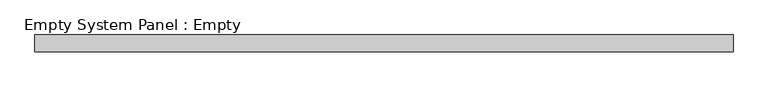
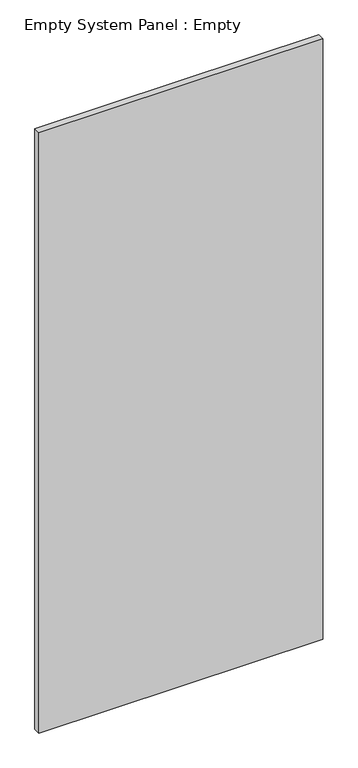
"""IFC4 building model written with IfcOpenShell, lengths in millimetres: plate geometry, Empty System Panel : Empty."""

from ifc_helpers import new_model, si_unit, origin, origin_with_axes, place, context, project, spatial, polyline, outline, extrude, source, transform, mapped, element, save


def empty_system_panel_empty_50bca125(model_context):
    return source(origin(), model_context, "Body", "SweptSolid", [
        extrude(outline(polyline([(527.05, 19.05), (-527.05, 19.05), (-527.05, 44.45), (527.05, 44.45), (527.05, 19.05)])), origin_with_axes(), (0.0, 0.0, 1.0), 2355.85),
    ])


if __name__ == "__main__":
    model = new_model("IFC4")
    model_context = context("Model", 3, world=origin())
    ifc_project = project(units=[si_unit("LENGTHUNIT", "METRE", prefix="MILLI")], contexts=[model_context])
    site = spatial("IfcSite", under=ifc_project)
    building = spatial("IfcBuilding", under=site)
    placement = place(None, origin())
    empty_system_panel_empty_shape = empty_system_panel_empty_50bca125(model_context)
    element("IfcPlate", 1, ObjectType="Empty System Panel : Empty", at=placement, inside=building, context=model_context, shape_type="MappedRepresentation", body=[
        mapped(empty_system_panel_empty_shape, transform((0.0, 0.0, 0.0), x_axis=(1.0, 0.0, 0.0), y_axis=(0.0, 1.0, 0.0), z_axis=(0.0, 0.0, 1.0))),
    ])
    save(model, "model.ifc")
